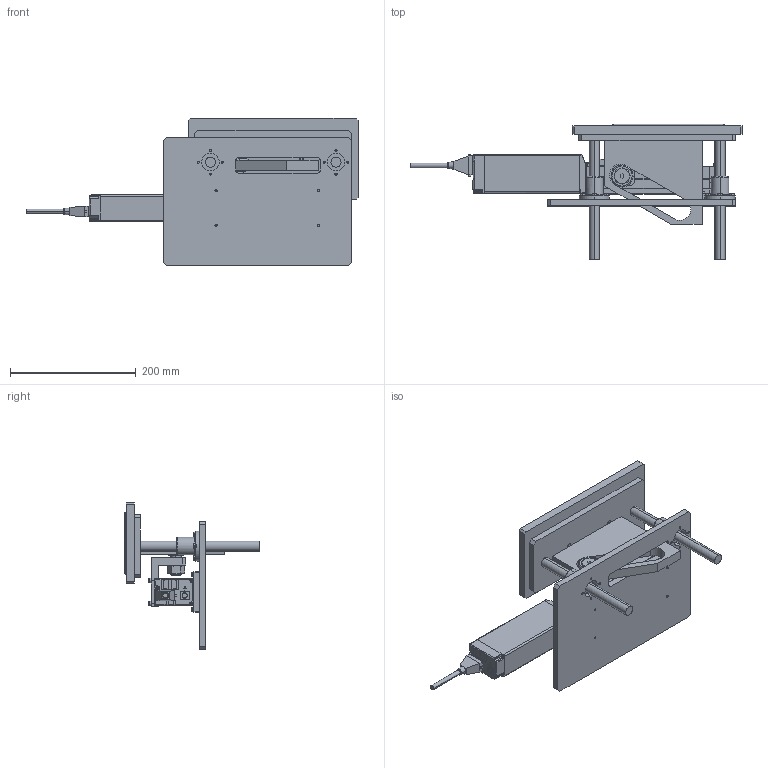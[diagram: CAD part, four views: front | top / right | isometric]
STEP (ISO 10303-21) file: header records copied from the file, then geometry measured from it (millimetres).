
FILE_DESCRIPTION (( 'STEP AP214' ), '1' );
FILE_NAME ('傾斜カム機構_組立図.STEP', '2024-06-04T02:54:43', ( '' ), ( '' ), 'SwSTEP 2.0', 'SolidWorks 2023', '' );
FILE_SCHEMA (( 'AUTOMOTIVE_DESIGN' ));
Length unit declared in the file: millimetre
Products named in the file (24): カムフォロア固定金具_[00]作図用; ワーク_[00]作図用; EC-FT-SRR4_[00]作図用; S4-slider; EC-S4-100-1-B-MOT-WA_motor; 六角穴付ボルト M6x12_六角穴付ﾎﾞﾙﾄ(ﾕﾆｸﾛ) M6x12; 傾斜カム機構_組立図; 位置決めピン_大頭ダイヤ形; S4-cable; 六角穴付ボルト M4x12_六角穴付ﾎﾞﾙﾄ(ﾕﾆｸﾛ) M4x10; EC-S4M-100-□-B-FT-MOT-WA_[01]0st; ワークパレット; 六角穴付ボルト M4x18_六角穴付ﾎﾞﾙﾄ(ﾕﾆｸﾛ) M4x18; ベースプレート_[03]S4M; 傾斜カム_[00]作図用; ナット; 昇降シャフト; カムフォロア; 昇降プレート_[00]作図用; リニアブッシュ; EC-S4-100-1-B-MOT-WA_body; 位置決めピン_大頭丸形; 六角穴付ボルト M4x15_六角穴付ﾎﾞﾙﾄ(ﾕﾆｸﾛ) M4x15
Assembly tree (42 placements, depth 3):
  傾斜カム機構_組立図
    EC-S4M-100-□-B-FT-MOT-WA_[01]0st
      S4-cable
      EC-S4-100-1-B-MOT-WA_motor
      S4-slider
      EC-S4-100-1-B-MOT-WA_body
      EC-FT-SRR4_[00]作図用  x2
    ベースプレート_[03]S4M
    リニアブッシュ  x2
    昇降プレート_[00]作図用
    傾斜カム_[00]作図用
    昇降シャフト  x2
    位置決めピン_大頭ダイヤ形
    位置決めピン_大頭丸形
    ワークパレット
    カムフォロア
      ナット
      カムフォロア
    カムフォロア固定金具_[00]作図用
    六角穴付ボルト M4x15_六角穴付ﾎﾞﾙﾄ(ﾕﾆｸﾛ) M4x15  x8
    六角穴付ボルト M6x12_六角穴付ﾎﾞﾙﾄ(ﾕﾆｸﾛ) M6x12  x2
    六角穴付ボルト M4x12_六角穴付ﾎﾞﾙﾄ(ﾕﾆｸﾛ) M4x10  x2
    六角穴付ボルト M4x18_六角穴付ﾎﾞﾙﾄ(ﾕﾆｸﾛ) M4x18  x8
    ワーク_[00]作図用
Bounding box: 528.5 x 216 x 235 mm (x, y, z)
Volume: 2660829.5 mm3; surface area: 541706.3 mm2
Topology: 42 solids, 42 shells, 1962 faces, 4931 edges, 3122 vertices
Faces by surface type: plane 1196, cylinder 465, cone 176, torus 115, sphere 6, bspline 4
Entity records: 47249 total; most frequent: CARTESIAN_POINT 9698, ORIENTED_EDGE 7706, DIRECTION 7557, EDGE_CURVE 3853, LINE 2611, VECTOR 2611, VERTEX_POINT 2509, AXIS2_PLACEMENT_3D 2473
